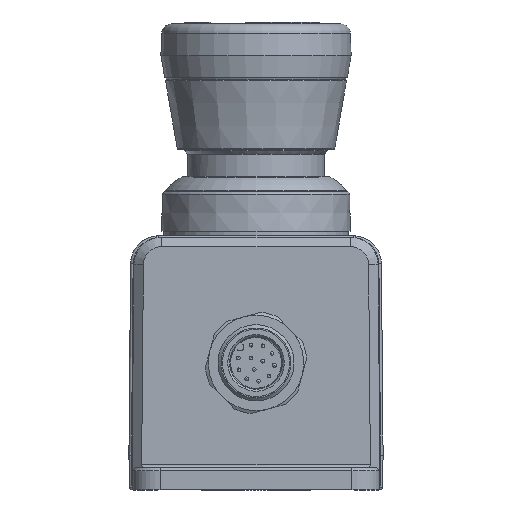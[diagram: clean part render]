
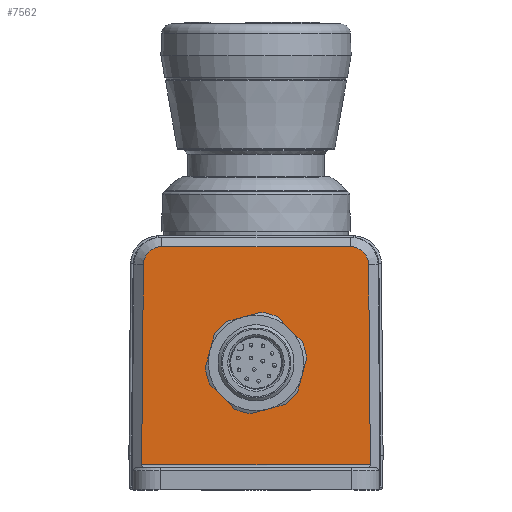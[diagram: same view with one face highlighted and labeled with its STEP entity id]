
A CAD part, front view. The second image highlights one B-rep face of the part: STEP entity #7562.
In plain terms, the highlighted planar face has unit normal (0, -1, 0).
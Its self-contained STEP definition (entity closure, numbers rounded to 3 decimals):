
#620=LINE('',#13170,#1029);
#621=LINE('',#13172,#1030);
#622=LINE('',#13176,#1031);
#623=LINE('',#13179,#1032);
#1029=VECTOR('',#10013,10.);
#1030=VECTOR('',#10014,10.);
#1031=VECTOR('',#10017,10.);
#1032=VECTOR('',#10020,10.);
#1486=FACE_BOUND('',#2321,.T.);
#1759=FACE_OUTER_BOUND('',#2320,.T.);
#2320=EDGE_LOOP('',(#5943,#5944,#5945,#5946,#5947,#5948));
#2321=EDGE_LOOP('',(#5949,#5950,#5951,#5952,#5953,#5954));
#2859=CIRCLE('',#8210,7.5);
#2872=CIRCLE('',#8242,7.5);
#2873=CIRCLE('',#8244,7.5);
#2874=CIRCLE('',#8246,7.5);
#2875=CIRCLE('',#8248,7.5);
#2876=CIRCLE('',#8250,7.5);
#2922=CIRCLE('',#8354,2.9);
#2923=CIRCLE('',#8355,2.9);
#3423=VERTEX_POINT('',#12749);
#3424=VERTEX_POINT('',#12750);
#3432=VERTEX_POINT('',#12779);
#3436=VERTEX_POINT('',#12795);
#3445=VERTEX_POINT('',#12841);
#3450=VERTEX_POINT('',#12861);
#3538=VERTEX_POINT('',#13168);
#3539=VERTEX_POINT('',#13169);
#3540=VERTEX_POINT('',#13171);
#3541=VERTEX_POINT('',#13173);
#3542=VERTEX_POINT('',#13175);
#3543=VERTEX_POINT('',#13177);
#4247=EDGE_CURVE('',#3423,#3424,#2859,.T.);
#4296=EDGE_CURVE('',#3450,#3432,#2872,.T.);
#4297=EDGE_CURVE('',#3445,#3450,#2873,.T.);
#4298=EDGE_CURVE('',#3424,#3445,#2874,.T.);
#4299=EDGE_CURVE('',#3436,#3423,#2875,.T.);
#4300=EDGE_CURVE('',#3432,#3436,#2876,.T.);
#4428=EDGE_CURVE('',#3538,#3539,#620,.T.);
#4429=EDGE_CURVE('',#3540,#3538,#621,.T.);
#4430=EDGE_CURVE('',#3541,#3540,#2922,.T.);
#4431=EDGE_CURVE('',#3542,#3541,#622,.T.);
#4432=EDGE_CURVE('',#3543,#3542,#2923,.T.);
#4433=EDGE_CURVE('',#3539,#3543,#623,.T.);
#5943=ORIENTED_EDGE('',*,*,#4428,.F.);
#5944=ORIENTED_EDGE('',*,*,#4429,.F.);
#5945=ORIENTED_EDGE('',*,*,#4430,.F.);
#5946=ORIENTED_EDGE('',*,*,#4431,.F.);
#5947=ORIENTED_EDGE('',*,*,#4432,.F.);
#5948=ORIENTED_EDGE('',*,*,#4433,.F.);
#5949=ORIENTED_EDGE('',*,*,#4296,.T.);
#5950=ORIENTED_EDGE('',*,*,#4300,.T.);
#5951=ORIENTED_EDGE('',*,*,#4299,.T.);
#5952=ORIENTED_EDGE('',*,*,#4247,.T.);
#5953=ORIENTED_EDGE('',*,*,#4298,.T.);
#5954=ORIENTED_EDGE('',*,*,#4297,.T.);
#7264=PLANE('',#8353);
#7562=ADVANCED_FACE('',(#1759,#1486),#7264,.T.);
#8210=AXIS2_PLACEMENT_3D('',#12751,#9637,#9638);
#8242=AXIS2_PLACEMENT_3D('',#12895,#9713,#9714);
#8244=AXIS2_PLACEMENT_3D('',#12897,#9717,#9718);
#8246=AXIS2_PLACEMENT_3D('',#12899,#9721,#9722);
#8248=AXIS2_PLACEMENT_3D('',#12901,#9725,#9726);
#8250=AXIS2_PLACEMENT_3D('',#12903,#9729,#9730);
#8353=AXIS2_PLACEMENT_3D('',#13167,#10011,#10012);
#8354=AXIS2_PLACEMENT_3D('',#13174,#10015,#10016);
#8355=AXIS2_PLACEMENT_3D('',#13178,#10018,#10019);
#9637=DIRECTION('center_axis',(0.,1.,0.));
#9638=DIRECTION('ref_axis',(-0.707,0.,0.707));
#9713=DIRECTION('center_axis',(0.,1.,0.));
#9714=DIRECTION('ref_axis',(-0.707,0.,0.707));
#9717=DIRECTION('center_axis',(0.,1.,0.));
#9718=DIRECTION('ref_axis',(-0.707,0.,0.707));
#9721=DIRECTION('center_axis',(0.,1.,0.));
#9722=DIRECTION('ref_axis',(-0.707,0.,0.707));
#9725=DIRECTION('center_axis',(0.,1.,0.));
#9726=DIRECTION('ref_axis',(-0.707,0.,0.707));
#9729=DIRECTION('center_axis',(0.,1.,0.));
#9730=DIRECTION('ref_axis',(-0.707,0.,0.707));
#10011=DIRECTION('center_axis',(0.,-1.,0.));
#10012=DIRECTION('ref_axis',(-1.,0.,0.));
#10013=DIRECTION('',(-1.,0.,0.));
#10014=DIRECTION('',(0.009,0.,-1.));
#10015=DIRECTION('center_axis',(0.,1.,0.));
#10016=DIRECTION('ref_axis',(0.704,0.,0.71));
#10017=DIRECTION('',(1.,0.,0.));
#10018=DIRECTION('center_axis',(0.,1.,0.));
#10019=DIRECTION('ref_axis',(-0.704,0.,0.71));
#10020=DIRECTION('',(0.009,0.,1.));
#12749=CARTESIAN_POINT('',(-7.244,-119.5,1.941));
#12750=CARTESIAN_POINT('',(-1.941,-119.5,7.244));
#12751=CARTESIAN_POINT('Origin',(0.,-119.5,0.));
#12779=CARTESIAN_POINT('',(1.941,-119.5,-7.244));
#12795=CARTESIAN_POINT('',(-5.303,-119.5,-5.303));
#12841=CARTESIAN_POINT('',(5.303,-119.5,5.303));
#12861=CARTESIAN_POINT('',(7.244,-119.5,-1.941));
#12895=CARTESIAN_POINT('Origin',(0.,-119.5,0.));
#12897=CARTESIAN_POINT('Origin',(0.,-119.5,0.));
#12899=CARTESIAN_POINT('Origin',(0.,-119.5,0.));
#12901=CARTESIAN_POINT('Origin',(0.,-119.5,0.));
#12903=CARTESIAN_POINT('Origin',(0.,-119.5,0.));
#13167=CARTESIAN_POINT('Origin',(0.,-119.5,-0.18));
#13168=CARTESIAN_POINT('',(17.996,-119.5,-16.));
#13169=CARTESIAN_POINT('',(-17.996,-119.5,-16.));
#13170=CARTESIAN_POINT('',(9.75,-119.5,-16.));
#13171=CARTESIAN_POINT('',(17.721,-119.5,15.425));
#13172=CARTESIAN_POINT('',(17.928,-119.5,-8.269));
#13173=CARTESIAN_POINT('',(14.821,-119.5,18.3));
#13174=CARTESIAN_POINT('Origin',(14.821,-119.5,15.4));
#13175=CARTESIAN_POINT('',(-14.821,-119.5,18.3));
#13176=CARTESIAN_POINT('',(9.592,-119.5,18.3));
#13177=CARTESIAN_POINT('',(-17.721,-119.5,15.425));
#13178=CARTESIAN_POINT('Origin',(-14.821,-119.5,15.4));
#13179=CARTESIAN_POINT('',(-17.77,-119.5,9.881));
